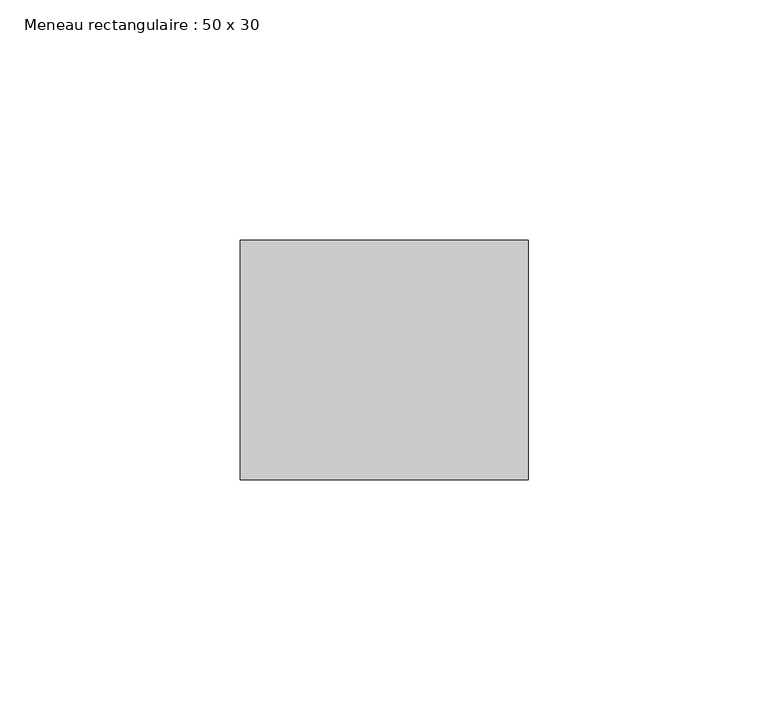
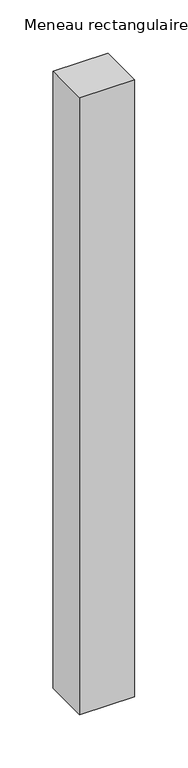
"""IFC4 building model written with IfcOpenShell, lengths in millimetres: member geometry, Meneau rectangulaire : 50 x 30."""

from ifc_helpers import new_model, si_unit, frame, origin, place, context, project, spatial, polyline, outline, extrude, source, transform, mapped, element, save


def meneau_rectangulaire_50_x_30_d22c28b9(model_context):
    return source(origin(), model_context, "Body", "SweptSolid", [
        extrude(outline(polyline([(0.0, 0.0), (0.0, -50.0), (-60.0, -50.0), (-60.0, 0.0), (0.0, 0.0)])), frame((0.0, 0.0, -709.0), z_axis=(0.0, 0.0, 1.0), x_axis=(1.0, 0.0, 0.0)), (0.0, 0.0, 1.0), 709.0),
    ])


if __name__ == "__main__":
    model = new_model("IFC4")
    model_context = context("Model", 3, world=origin())
    ifc_project = project(units=[si_unit("LENGTHUNIT", "METRE", prefix="MILLI")], contexts=[model_context])
    site = spatial("IfcSite", under=ifc_project)
    building = spatial("IfcBuilding", under=site)
    placement = place(None, origin())
    meneau_rectangulaire_50_x_30_shape = meneau_rectangulaire_50_x_30_d22c28b9(model_context)
    element("IfcMember", 1, ObjectType="Meneau rectangulaire : 50 x 30", at=placement, inside=building, context=model_context, shape_type="MappedRepresentation", body=[
        mapped(meneau_rectangulaire_50_x_30_shape, transform((0.0, 0.0, 0.0), x_axis=(1.0, 0.0, 0.0), y_axis=(0.0, 1.0, 0.0), z_axis=(0.0, 0.0, 1.0))),
    ])
    save(model, "model.ifc")
